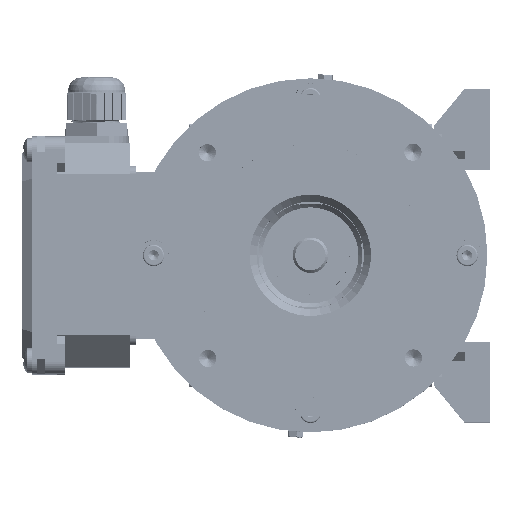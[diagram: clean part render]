
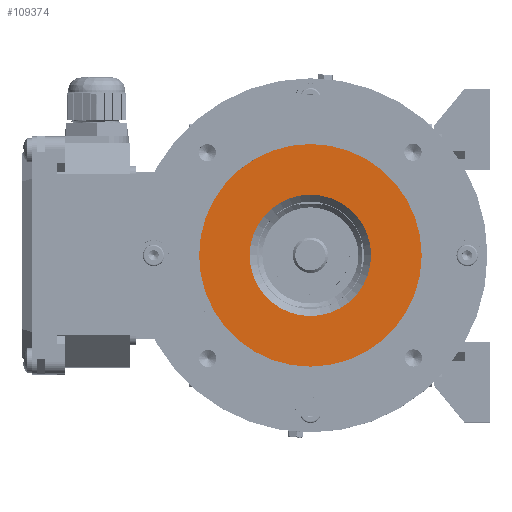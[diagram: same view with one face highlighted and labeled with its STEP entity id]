
A CAD part, top view. The second image highlights one B-rep face of the part: STEP entity #109374.
In plain terms, the highlighted planar face has unit normal (0, 0, 1).
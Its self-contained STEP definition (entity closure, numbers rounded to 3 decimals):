
#2501 = EDGE_LOOP ( 'NONE', ( #141063, #23973 ) ) ;
#2819 = PLANE ( 'NONE',  #79584 ) ;
#3794 = CARTESIAN_POINT ( 'NONE',  ( 24., 0., -2.05 ) ) ;
#4118 = VERTEX_POINT ( 'NONE', #29402 ) ;
#7069 = DIRECTION ( 'NONE',  ( 1., 0., 0. ) ) ;
#9744 = DIRECTION ( 'NONE',  ( 1., 0., 0. ) ) ;
#14256 = EDGE_LOOP ( 'NONE', ( #60633, #16806 ) ) ;
#15229 = DIRECTION ( 'NONE',  ( 0., 0., 1. ) ) ;
#16806 = ORIENTED_EDGE ( 'NONE', *, *, #132865, .T. ) ;
#19563 = CIRCLE ( 'NONE', #135943, 24. ) ;
#20990 = CARTESIAN_POINT ( 'NONE',  ( 0., 0., -2.05 ) ) ;
#23197 = CARTESIAN_POINT ( 'NONE',  ( -24., 0., -2.05 ) ) ;
#23973 = ORIENTED_EDGE ( 'NONE', *, *, #121510, .F. ) ;
#29402 = CARTESIAN_POINT ( 'NONE',  ( 44., 0., -2.05 ) ) ;
#32402 = DIRECTION ( 'NONE',  ( 1., 0., 0. ) ) ;
#32538 = EDGE_CURVE ( 'NONE', #4118, #78712, #46456, .T. ) ;
#34248 = CARTESIAN_POINT ( 'NONE',  ( 0., 0., -2.05 ) ) ;
#45594 = DIRECTION ( 'NONE',  ( 1., 0., 0. ) ) ;
#46456 = CIRCLE ( 'NONE', #94698, 44. ) ;
#60633 = ORIENTED_EDGE ( 'NONE', *, *, #32538, .T. ) ;
#66794 = AXIS2_PLACEMENT_3D ( 'NONE', #143012, #75024, #7069 ) ;
#75024 = DIRECTION ( 'NONE',  ( 0., 0., 1. ) ) ;
#77721 = DIRECTION ( 'NONE',  ( 0., 0., 1. ) ) ;
#78712 = VERTEX_POINT ( 'NONE', #118115 ) ;
#79584 = AXIS2_PLACEMENT_3D ( 'NONE', #3794, #15229, #94596 ) ;
#85216 = FACE_OUTER_BOUND ( 'NONE', #14256, .T. ) ;
#88950 = CIRCLE ( 'NONE', #115029, 24. ) ;
#92366 = CIRCLE ( 'NONE', #66794, 44. ) ;
#94596 = DIRECTION ( 'NONE',  ( 1., 0., 0. ) ) ;
#94698 = AXIS2_PLACEMENT_3D ( 'NONE', #145689, #77721, #9744 ) ;
#100299 = DIRECTION ( 'NONE',  ( 0., 0., 1. ) ) ;
#101242 = EDGE_CURVE ( 'NONE', #128534, #133543, #88950, .T. ) ;
#109374 = ADVANCED_FACE ( 'NONE', ( #85216, #145580 ), #2819, .T. ) ;
#113563 = DIRECTION ( 'NONE',  ( 0., 0., 1. ) ) ;
#115029 = AXIS2_PLACEMENT_3D ( 'NONE', #34248, #113563, #45594 ) ;
#115089 = CARTESIAN_POINT ( 'NONE',  ( 24., 0., -2.05 ) ) ;
#118115 = CARTESIAN_POINT ( 'NONE',  ( -44., 0., -2.05 ) ) ;
#121510 = EDGE_CURVE ( 'NONE', #133543, #128534, #19563, .T. ) ;
#128534 = VERTEX_POINT ( 'NONE', #115089 ) ;
#132865 = EDGE_CURVE ( 'NONE', #78712, #4118, #92366, .T. ) ;
#133543 = VERTEX_POINT ( 'NONE', #23197 ) ;
#135943 = AXIS2_PLACEMENT_3D ( 'NONE', #20990, #100299, #32402 ) ;
#141063 = ORIENTED_EDGE ( 'NONE', *, *, #101242, .F. ) ;
#143012 = CARTESIAN_POINT ( 'NONE',  ( 0., 0., -2.05 ) ) ;
#145580 = FACE_BOUND ( 'NONE', #2501, .T. ) ;
#145689 = CARTESIAN_POINT ( 'NONE',  ( 0., 0., -2.05 ) ) ;
